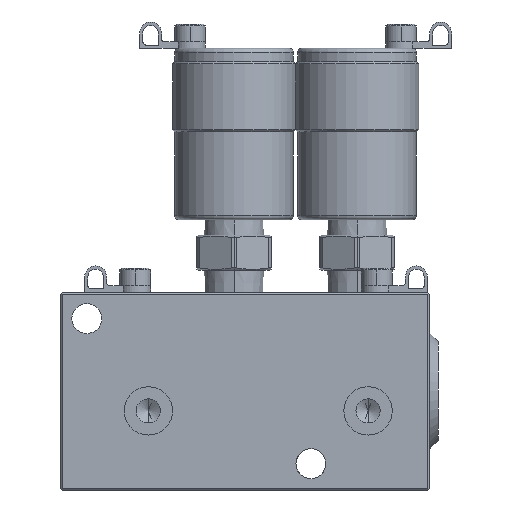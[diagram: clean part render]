
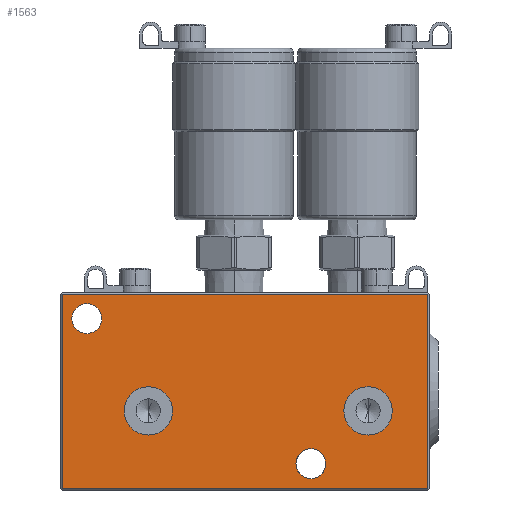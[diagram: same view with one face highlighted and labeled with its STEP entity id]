
A CAD part, front view. The second image highlights one B-rep face of the part: STEP entity #1563.
In plain terms, the highlighted planar face has unit normal (0, -1, 0).
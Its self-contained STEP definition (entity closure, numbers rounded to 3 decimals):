
#1274=PLANE('',#5560);
#1373=FACE_BOUND('',#2173,.T.);
#1374=FACE_BOUND('',#2174,.T.);
#1375=FACE_BOUND('',#2175,.T.);
#1376=FACE_BOUND('',#2176,.T.);
#1377=FACE_BOUND('',#2177,.T.);
#1563=ADVANCED_FACE('',(#1373,#1374,#1375,#1376,#1377),#1274,.F.);
#2173=EDGE_LOOP('',(#3215,#3216));
#2174=EDGE_LOOP('',(#3217,#3218));
#2175=EDGE_LOOP('',(#3219,#3220));
#2176=EDGE_LOOP('',(#3221,#3222));
#2177=EDGE_LOOP('',(#3223,#3224,#3225,#3226));
#2522=LINE('',#7756,#2818);
#2525=LINE('',#7766,#2821);
#2526=LINE('',#7768,#2822);
#2527=LINE('',#7770,#2823);
#2818=VECTOR('',#6302,1.);
#2821=VECTOR('',#6315,1.);
#2822=VECTOR('',#6316,1.);
#2823=VECTOR('',#6317,1.);
#3215=ORIENTED_EDGE('',*,*,#4748,.F.);
#3216=ORIENTED_EDGE('',*,*,#4603,.F.);
#3217=ORIENTED_EDGE('',*,*,#4749,.F.);
#3218=ORIENTED_EDGE('',*,*,#4613,.F.);
#3219=ORIENTED_EDGE('',*,*,#4750,.T.);
#3220=ORIENTED_EDGE('',*,*,#4687,.T.);
#3221=ORIENTED_EDGE('',*,*,#4751,.T.);
#3222=ORIENTED_EDGE('',*,*,#4691,.T.);
#3223=ORIENTED_EDGE('',*,*,#4745,.T.);
#3224=ORIENTED_EDGE('',*,*,#4752,.T.);
#3225=ORIENTED_EDGE('',*,*,#4753,.F.);
#3226=ORIENTED_EDGE('',*,*,#4754,.T.);
#4234=VERTEX_POINT('',#7447);
#4235=VERTEX_POINT('',#7449);
#4243=VERTEX_POINT('',#7469);
#4244=VERTEX_POINT('',#7471);
#4307=VERTEX_POINT('',#7642);
#4308=VERTEX_POINT('',#7643);
#4311=VERTEX_POINT('',#7651);
#4312=VERTEX_POINT('',#7652);
#4345=VERTEX_POINT('',#7755);
#4346=VERTEX_POINT('',#7757);
#4348=VERTEX_POINT('',#7767);
#4349=VERTEX_POINT('',#7769);
#4603=EDGE_CURVE('',#4234,#4235,#5194,.T.);
#4613=EDGE_CURVE('',#4243,#4244,#5198,.T.);
#4687=EDGE_CURVE('',#4307,#4308,#5225,.T.);
#4691=EDGE_CURVE('',#4311,#4312,#5227,.T.);
#4745=EDGE_CURVE('',#4346,#4345,#2522,.T.);
#4748=EDGE_CURVE('',#4235,#4234,#5247,.T.);
#4749=EDGE_CURVE('',#4244,#4243,#5248,.T.);
#4750=EDGE_CURVE('',#4308,#4307,#5249,.T.);
#4751=EDGE_CURVE('',#4312,#4311,#5250,.T.);
#4752=EDGE_CURVE('',#4345,#4348,#2525,.T.);
#4753=EDGE_CURVE('',#4349,#4348,#2526,.T.);
#4754=EDGE_CURVE('',#4349,#4346,#2527,.T.);
#5194=CIRCLE('',#5465,5.5);
#5198=CIRCLE('',#5472,5.5);
#5225=CIRCLE('',#5521,3.4);
#5227=CIRCLE('',#5524,3.4);
#5247=CIRCLE('',#5556,5.5);
#5248=CIRCLE('',#5557,5.5);
#5249=CIRCLE('',#5558,3.4);
#5250=CIRCLE('',#5559,3.4);
#5465=AXIS2_PLACEMENT_3D('',#7448,#6039,#6040);
#5472=AXIS2_PLACEMENT_3D('',#7470,#6059,#6060);
#5521=AXIS2_PLACEMENT_3D('',#7641,#6200,#6201);
#5524=AXIS2_PLACEMENT_3D('',#7650,#6208,#6209);
#5556=AXIS2_PLACEMENT_3D('',#7762,#6307,#6308);
#5557=AXIS2_PLACEMENT_3D('',#7763,#6309,#6310);
#5558=AXIS2_PLACEMENT_3D('',#7764,#6311,#6312);
#5559=AXIS2_PLACEMENT_3D('',#7765,#6313,#6314);
#5560=AXIS2_PLACEMENT_3D('',#7771,#6318,#6319);
#6039=DIRECTION('',(0.,-1.,0.));
#6040=DIRECTION('',(0.,0.,-1.));
#6059=DIRECTION('',(0.,-1.,0.));
#6060=DIRECTION('',(0.,0.,-1.));
#6200=DIRECTION('',(0.,1.,0.));
#6201=DIRECTION('',(0.,0.,1.));
#6208=DIRECTION('',(0.,1.,0.));
#6209=DIRECTION('',(0.,0.,1.));
#6302=DIRECTION('',(-1.,0.,0.));
#6307=DIRECTION('',(0.,-1.,0.));
#6308=DIRECTION('',(0.,0.,-1.));
#6309=DIRECTION('',(0.,-1.,0.));
#6310=DIRECTION('',(0.,0.,-1.));
#6311=DIRECTION('',(0.,1.,0.));
#6312=DIRECTION('',(0.,0.,1.));
#6313=DIRECTION('',(0.,1.,0.));
#6314=DIRECTION('',(0.,0.,1.));
#6315=DIRECTION('',(0.,0.,-1.));
#6316=DIRECTION('',(-1.,0.,0.));
#6317=DIRECTION('',(0.,0.,1.));
#6318=DIRECTION('',(0.,1.,0.));
#6319=DIRECTION('',(0.,0.,-1.));
#7447=CARTESIAN_POINT('',(28.,-22.5,1.));
#7448=CARTESIAN_POINT('',(28.,-22.5,-4.5));
#7449=CARTESIAN_POINT('',(28.,-22.5,-10.));
#7469=CARTESIAN_POINT('',(-22.,-22.5,1.));
#7470=CARTESIAN_POINT('',(-22.,-22.5,-4.5));
#7471=CARTESIAN_POINT('',(-22.,-22.5,-10.));
#7641=CARTESIAN_POINT('',(-36.,-22.5,16.5));
#7642=CARTESIAN_POINT('',(-36.,-22.5,13.1));
#7643=CARTESIAN_POINT('',(-36.,-22.5,19.9));
#7650=CARTESIAN_POINT('',(15.,-22.5,-16.5));
#7651=CARTESIAN_POINT('',(15.,-22.5,-19.9));
#7652=CARTESIAN_POINT('',(15.,-22.5,-13.1));
#7755=CARTESIAN_POINT('',(-41.6,-22.5,22.1));
#7756=CARTESIAN_POINT('',(42.,-22.5,22.1));
#7757=CARTESIAN_POINT('',(41.6,-22.5,22.1));
#7762=CARTESIAN_POINT('',(28.,-22.5,-4.5));
#7763=CARTESIAN_POINT('',(-22.,-22.5,-4.5));
#7764=CARTESIAN_POINT('',(-36.,-22.5,16.5));
#7765=CARTESIAN_POINT('',(15.,-22.5,-16.5));
#7766=CARTESIAN_POINT('',(-41.6,-22.5,-22.1));
#7767=CARTESIAN_POINT('',(-41.6,-22.5,-22.1));
#7768=CARTESIAN_POINT('',(42.,-22.5,-22.1));
#7769=CARTESIAN_POINT('',(41.6,-22.5,-22.1));
#7770=CARTESIAN_POINT('',(41.6,-22.5,-22.1));
#7771=CARTESIAN_POINT('',(42.,-22.5,-22.1));
